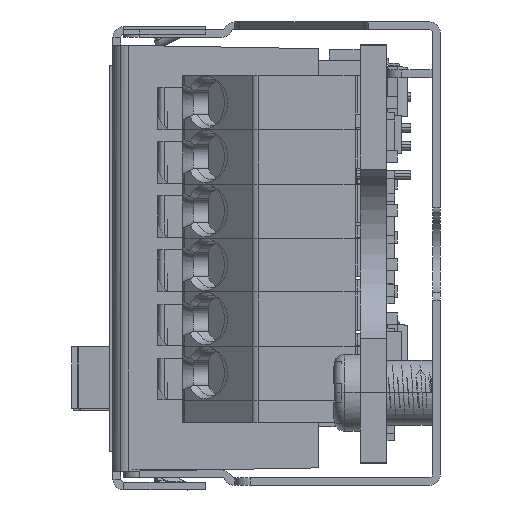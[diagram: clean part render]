
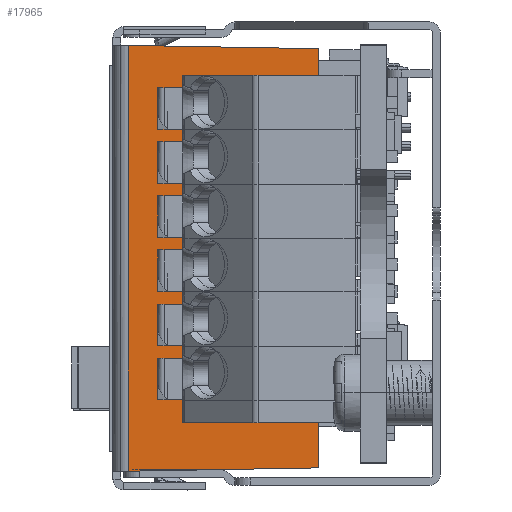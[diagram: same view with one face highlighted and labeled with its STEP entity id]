
A CAD part, left-side view. The second image highlights one B-rep face of the part: STEP entity #17965.
In plain terms, the highlighted planar face has unit normal (-1, 0, 0).
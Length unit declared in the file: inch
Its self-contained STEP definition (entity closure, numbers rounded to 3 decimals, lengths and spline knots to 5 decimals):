
#5885=CARTESIAN_POINT('',(-4.36516,-0.01968,
0.54262));
#5890=DIRECTION('',(0.,0.,-1.));
#5891=VECTOR('',#5890,1.08524);
#5892=CARTESIAN_POINT('',(-4.36516,-0.01968,
0.54262));
#5893=LINE('',#5892,#5891);
#5897=CARTESIAN_POINT('',(-4.36516,-0.01968,
-0.54262));
#8555=DIRECTION('',(0.,0.,1.));
#8556=VECTOR('',#8555,1.06833);
#8557=CARTESIAN_POINT('',(-4.36516,-0.50394,
-0.53417));
#8558=LINE('',#8557,#8556);
#8569=DIRECTION('',(0.,1.,-0.017));
#8570=VECTOR('',#8569,0.48433);
#8571=CARTESIAN_POINT('',(-4.36516,-0.50394,
-0.53417));
#8572=LINE('',#8571,#8570);
#8576=DIRECTION('',(0.,-1.,-0.017));
#8577=VECTOR('',#8576,0.48433);
#8578=CARTESIAN_POINT('',(-4.36516,-0.01968,
0.54262));
#8579=LINE('',#8578,#8577);
#12600=VERTEX_POINT('',#5897);
#12603=VERTEX_POINT('',#5885);
#12847=CARTESIAN_POINT('',(-4.36516,-0.50394,
-0.53417));
#12848=CARTESIAN_POINT('',(-4.36516,-0.50394,
0.53417));
#12849=VERTEX_POINT('',#12847);
#12850=VERTEX_POINT('',#12848);
#17952=CARTESIAN_POINT('',(-4.36516,-0.57087,
0.54331));
#17953=DIRECTION('',(-1.,0.,0.));
#17954=DIRECTION('',(0.,1.,0.));
#17955=AXIS2_PLACEMENT_3D('',#17952,#17953,#17954);
#17956=PLANE('',#17955);
#17957=ORIENTED_EDGE('',*,*,#17942,.F.);
#17959=ORIENTED_EDGE('',*,*,#17958,.T.);
#17960=ORIENTED_EDGE('',*,*,#13652,.F.);
#17962=ORIENTED_EDGE('',*,*,#17961,.T.);
#17963=EDGE_LOOP('',(#17957,#17959,#17960,#17962));
#17964=FACE_OUTER_BOUND('',#17963,.F.);
#17965=ADVANCED_FACE('',(#17964),#17956,.T.);
#13652=EDGE_CURVE('',#12603,#12600,#5893,.T.);
#17942=EDGE_CURVE('',#12849,#12850,#8558,.T.);
#17958=EDGE_CURVE('',#12849,#12600,#8572,.T.);
#17961=EDGE_CURVE('',#12603,#12850,#8579,.T.);
